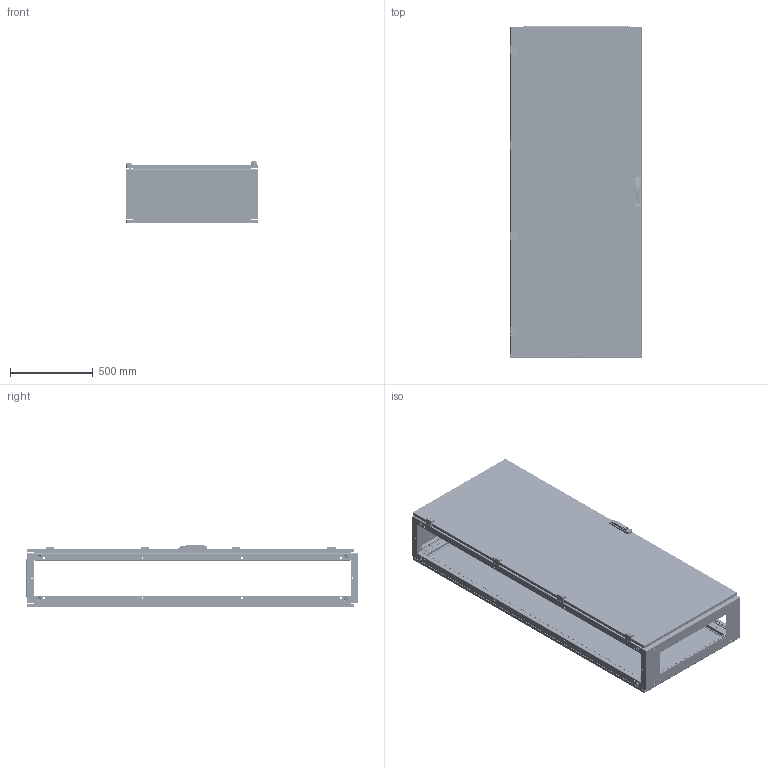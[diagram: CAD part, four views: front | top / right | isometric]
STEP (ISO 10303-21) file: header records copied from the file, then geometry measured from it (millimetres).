
FILE_DESCRIPTION (( 'STEP AP214' ), '1' );
FILE_NAME ('QA200803.step', '2011-08-10T07:57:22', ( 'Radek Veselý' ), ( 'Siemens and Partners' ), 'SwSTEP 2.0', 'SolidWorks 2006303', '' );
FILE_SCHEMA (( 'AUTOMOTIVE_DESIGN' ));
Length unit declared in the file: millimetre
Products named in the file (1): QA200803
Bounding box: 800 x 2004.5 x 376 mm (x, y, z)
Volume: 10407090.2 mm3; surface area: 12184221.1 mm2
Topology: 94 solids, 94 shells, 6743 faces, 18336 edges, 11786 vertices
Faces by surface type: plane 3608, cylinder 2583, cone 280, torus 164, sphere 60, bspline 48
Entity records: 294112 total; most frequent: CARTESIAN_POINT 39328, DIRECTION 37224, ORIENTED_EDGE 36304, EDGE_CURVE 18152, AXIS2_PLACEMENT_3D 12573, VECTOR 12078, LINE 12078, VERTEX_POINT 11770
